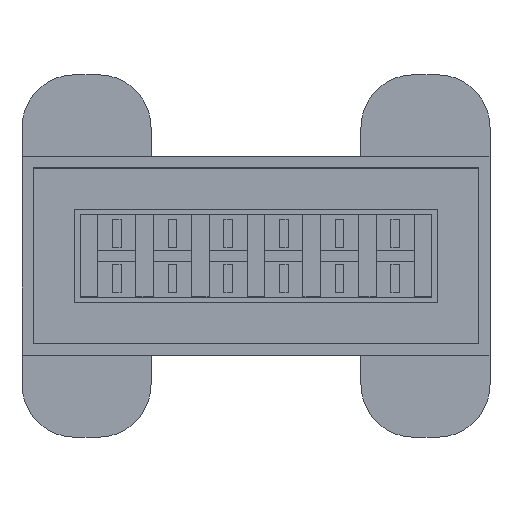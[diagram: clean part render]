
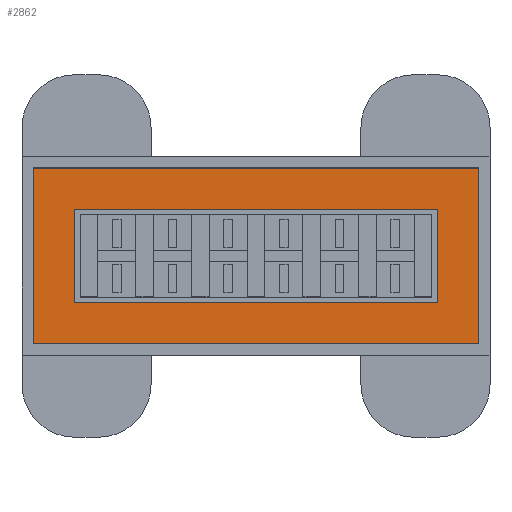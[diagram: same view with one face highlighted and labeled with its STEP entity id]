
A CAD part, top view. The second image highlights one B-rep face of the part: STEP entity #2862.
In plain terms, the highlighted planar face has unit normal (0, 0, 1).
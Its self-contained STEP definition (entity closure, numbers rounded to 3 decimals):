
#24=FACE_BOUND('',#472,.T.);
#164=PLANE('',#3041);
#313=FACE_OUTER_BOUND('',#471,.T.);
#471=EDGE_LOOP('',(#2656,#2657,#2658,#2659));
#472=EDGE_LOOP('',(#2660,#2661,#2662,#2663));
#539=LINE('',#3907,#919);
#543=LINE('',#3915,#923);
#546=LINE('',#3921,#926);
#549=LINE('',#3926,#929);
#856=LINE('',#4550,#1236);
#859=LINE('',#4555,#1239);
#861=LINE('',#4559,#1241);
#863=LINE('',#4562,#1243);
#919=VECTOR('',#3187,10.);
#923=VECTOR('',#3193,10.);
#926=VECTOR('',#3198,10.);
#929=VECTOR('',#3203,10.);
#1236=VECTOR('',#3732,10.);
#1239=VECTOR('',#3737,10.);
#1241=VECTOR('',#3741,10.);
#1243=VECTOR('',#3745,10.);
#1308=VERTEX_POINT('',#3905);
#1309=VERTEX_POINT('',#3906);
#1312=VERTEX_POINT('',#3914);
#1314=VERTEX_POINT('',#3920);
#1520=VERTEX_POINT('',#4548);
#1521=VERTEX_POINT('',#4549);
#1522=VERTEX_POINT('',#4554);
#1523=VERTEX_POINT('',#4558);
#1595=EDGE_CURVE('',#1308,#1309,#539,.T.);
#1599=EDGE_CURVE('',#1309,#1312,#543,.T.);
#1602=EDGE_CURVE('',#1312,#1314,#546,.T.);
#1605=EDGE_CURVE('',#1314,#1308,#549,.T.);
#1912=EDGE_CURVE('',#1520,#1521,#856,.T.);
#1915=EDGE_CURVE('',#1522,#1520,#859,.T.);
#1917=EDGE_CURVE('',#1523,#1522,#861,.T.);
#1919=EDGE_CURVE('',#1521,#1523,#863,.T.);
#2656=ORIENTED_EDGE('',*,*,#1595,.T.);
#2657=ORIENTED_EDGE('',*,*,#1599,.T.);
#2658=ORIENTED_EDGE('',*,*,#1602,.T.);
#2659=ORIENTED_EDGE('',*,*,#1605,.T.);
#2660=ORIENTED_EDGE('',*,*,#1912,.T.);
#2661=ORIENTED_EDGE('',*,*,#1919,.T.);
#2662=ORIENTED_EDGE('',*,*,#1917,.T.);
#2663=ORIENTED_EDGE('',*,*,#1915,.T.);
#2862=ADVANCED_FACE('',(#313,#24),#164,.T.);
#3041=AXIS2_PLACEMENT_3D('',#4563,#3746,#3747);
#3187=DIRECTION('',(-1.,0.,0.));
#3193=DIRECTION('',(0.,-1.,0.));
#3198=DIRECTION('',(1.,0.,0.));
#3203=DIRECTION('',(0.,1.,0.));
#3732=DIRECTION('',(1.,0.,0.));
#3737=DIRECTION('',(0.,1.,0.));
#3741=DIRECTION('',(-1.,0.,0.));
#3745=DIRECTION('',(0.,-1.,0.));
#3746=DIRECTION('center_axis',(0.,0.,1.));
#3747=DIRECTION('ref_axis',(1.,0.,0.));
#3905=CARTESIAN_POINT('',(68.,22.,0.));
#3906=CARTESIAN_POINT('',(-8.,22.,0.));
#3907=CARTESIAN_POINT('',(11.,22.,0.));
#3914=CARTESIAN_POINT('',(-8.,-8.,0.));
#3915=CARTESIAN_POINT('',(-8.,-0.5,0.));
#3920=CARTESIAN_POINT('',(68.,-8.,0.));
#3921=CARTESIAN_POINT('',(49.,-8.,0.));
#3926=CARTESIAN_POINT('',(68.,14.5,0.));
#4548=CARTESIAN_POINT('',(-1.,15.,0.));
#4549=CARTESIAN_POINT('',(61.,15.,0.));
#4550=CARTESIAN_POINT('',(14.5,15.,0.));
#4554=CARTESIAN_POINT('',(-1.,-1.,0.));
#4555=CARTESIAN_POINT('',(-1.,3.,0.));
#4558=CARTESIAN_POINT('',(61.,-1.,0.));
#4559=CARTESIAN_POINT('',(45.5,-1.,0.));
#4562=CARTESIAN_POINT('',(61.,11.,0.));
#4563=CARTESIAN_POINT('Origin',(30.,7.,0.));
